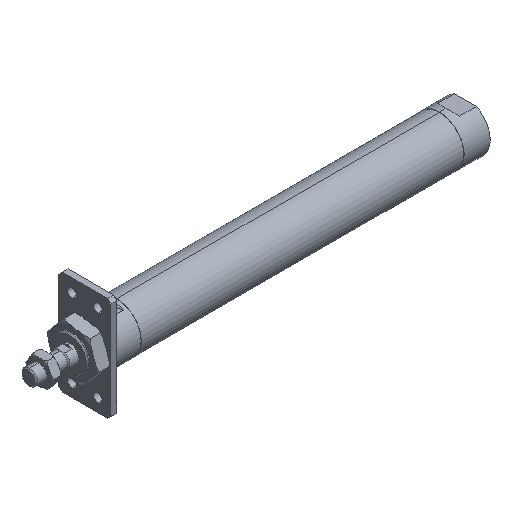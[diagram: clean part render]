
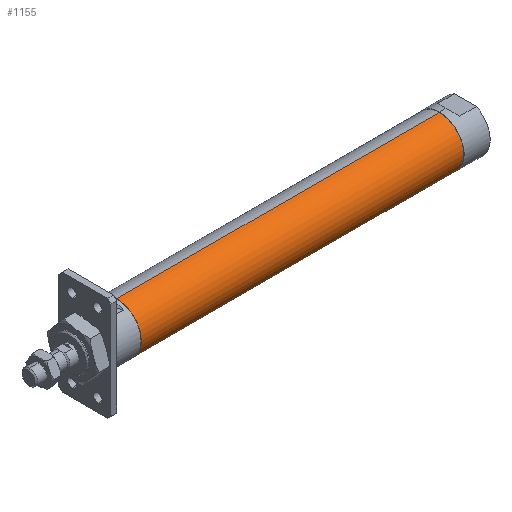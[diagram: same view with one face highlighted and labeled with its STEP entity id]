
A CAD part, isometric view. The second image highlights one B-rep face of the part: STEP entity #1155.
In plain terms, the highlighted cylindrical face has radius 18.8 mm (diameter 37.6 mm), a partial arc.
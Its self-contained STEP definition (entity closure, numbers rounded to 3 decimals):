
#105 = DIRECTION ( 'NONE',  ( -1., 0., 0. ) ) ;
#385 = AXIS2_PLACEMENT_3D ( 'NONE', #3724, #2120, #4065 ) ;
#432 = CARTESIAN_POINT ( 'NONE',  ( 317., 0., 18.8 ) ) ;
#486 = ORIENTED_EDGE ( 'NONE', *, *, #3890, .F. ) ;
#511 = CARTESIAN_POINT ( 'NONE',  ( 68., 0., 18.8 ) ) ;
#727 = DIRECTION ( 'NONE',  ( -1., 0., 0. ) ) ;
#745 = DIRECTION ( 'NONE',  ( -1., 0., 0. ) ) ;
#798 = CIRCLE ( 'NONE', #2838, 18.8 ) ;
#954 = CARTESIAN_POINT ( 'NONE',  ( 317., 0., 0. ) ) ;
#1155 = ADVANCED_FACE ( 'NONE', ( #3988 ), #3242, .T. ) ;
#1462 = ORIENTED_EDGE ( 'NONE', *, *, #2778, .T. ) ;
#1586 = VECTOR ( 'NONE', #105, 1000. ) ;
#1742 = VECTOR ( 'NONE', #745, 1000. ) ;
#1759 = EDGE_LOOP ( 'NONE', ( #3346, #1462, #2591, #486 ) ) ;
#1828 = DIRECTION ( 'NONE',  ( 0., 0., 1. ) ) ;
#1855 = DIRECTION ( 'NONE',  ( -1., 0., 0. ) ) ;
#1911 = VERTEX_POINT ( 'NONE', #511 ) ;
#2015 = CARTESIAN_POINT ( 'NONE',  ( -1.784, 0., 18.8 ) ) ;
#2120 = DIRECTION ( 'NONE',  ( -1., 0., 0. ) ) ;
#2148 = VERTEX_POINT ( 'NONE', #432 ) ;
#2192 = CIRCLE ( 'NONE', #3261, 18.8 ) ;
#2353 = EDGE_CURVE ( 'NONE', #2148, #1911, #2854, .T. ) ;
#2591 = ORIENTED_EDGE ( 'NONE', *, *, #2353, .T. ) ;
#2641 = DIRECTION ( 'NONE',  ( 0., 0., 1. ) ) ;
#2737 = VERTEX_POINT ( 'NONE', #3478 ) ;
#2769 = VERTEX_POINT ( 'NONE', #3811 ) ;
#2778 = EDGE_CURVE ( 'NONE', #2769, #2148, #2192, .T. ) ;
#2838 = AXIS2_PLACEMENT_3D ( 'NONE', #2989, #727, #2641 ) ;
#2854 = LINE ( 'NONE', #2015, #1742 ) ;
#2989 = CARTESIAN_POINT ( 'NONE',  ( 68., 0., 0. ) ) ;
#3189 = LINE ( 'NONE', #3569, #1586 ) ;
#3242 = CYLINDRICAL_SURFACE ( 'NONE', #385, 18.8 ) ;
#3261 = AXIS2_PLACEMENT_3D ( 'NONE', #954, #1855, #1828 ) ;
#3265 = EDGE_CURVE ( 'NONE', #2769, #2737, #3189, .T. ) ;
#3346 = ORIENTED_EDGE ( 'NONE', *, *, #3265, .F. ) ;
#3478 = CARTESIAN_POINT ( 'NONE',  ( 68., 0., -18.8 ) ) ;
#3569 = CARTESIAN_POINT ( 'NONE',  ( -1.784, 0., -18.8 ) ) ;
#3724 = CARTESIAN_POINT ( 'NONE',  ( -1.784, 0., 0. ) ) ;
#3811 = CARTESIAN_POINT ( 'NONE',  ( 317., 0., -18.8 ) ) ;
#3890 = EDGE_CURVE ( 'NONE', #2737, #1911, #798, .T. ) ;
#3988 = FACE_OUTER_BOUND ( 'NONE', #1759, .T. ) ;
#4065 = DIRECTION ( 'NONE',  ( 0., 0., 1. ) ) ;
